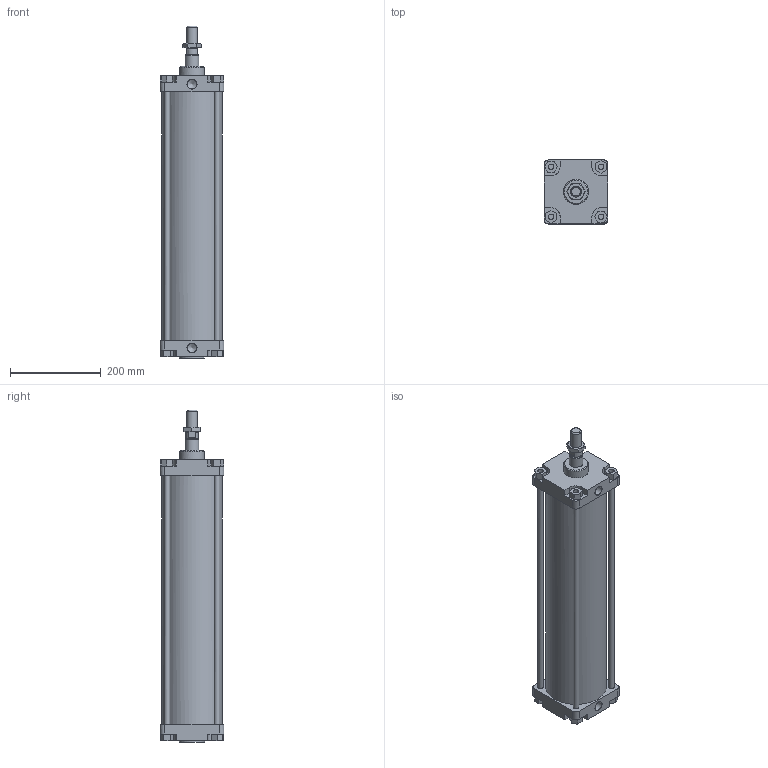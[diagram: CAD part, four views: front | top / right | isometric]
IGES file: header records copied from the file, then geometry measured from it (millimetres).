
Global section: file name: 1304_125_0450_01A; native system: Autodesk Inventor 2014; preprocessor: unknown; author: A. Manieri; date: 20161124.142503; units: millimetre
Bounding box: 140 x 140 x 730 mm (x, y, z)
Volume: 4027979 mm3; surface area: 795336.6 mm2
Topology: 9 solids, 9 shells, 175 faces, 440 edges, 295 vertices
Faces by surface type: bspline 175
